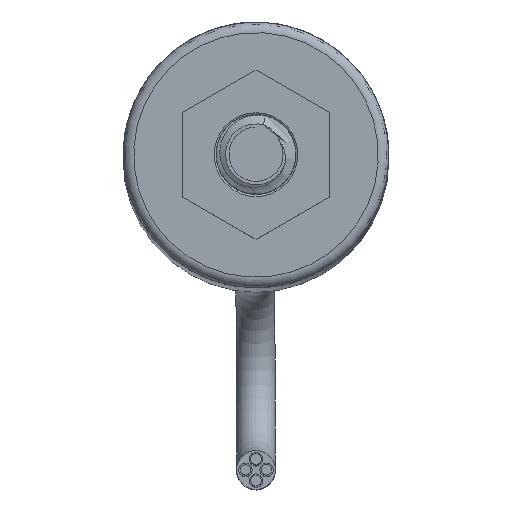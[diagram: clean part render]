
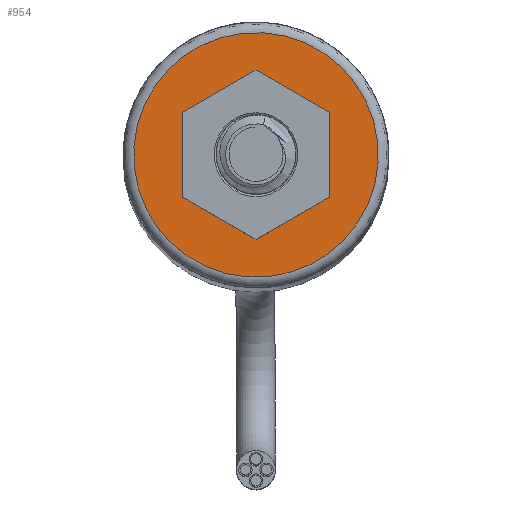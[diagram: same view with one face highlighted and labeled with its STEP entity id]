
A CAD part, top view. The second image highlights one B-rep face of the part: STEP entity #954.
In plain terms, the highlighted planar face has unit normal (0, 0, 1).
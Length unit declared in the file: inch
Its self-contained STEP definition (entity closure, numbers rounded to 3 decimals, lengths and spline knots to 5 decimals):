
#69=FACE_BOUND('',#190,.T.);
#87=PLANE('',#1193);
#123=FACE_OUTER_BOUND('',#189,.T.);
#189=EDGE_LOOP('',(#642));
#190=EDGE_LOOP('',(#643));
#367=CIRCLE('',#1188,0.23);
#371=CIRCLE('',#1194,0.11);
#424=VERTEX_POINT('',#1625);
#427=VERTEX_POINT('',#1635);
#506=EDGE_CURVE('',#424,#424,#367,.T.);
#511=EDGE_CURVE('',#427,#427,#371,.T.);
#642=ORIENTED_EDGE('',*,*,#506,.F.);
#643=ORIENTED_EDGE('',*,*,#511,.T.);
#954=ADVANCED_FACE('',(#123,#69),#87,.T.);
#1188=AXIS2_PLACEMENT_3D('',#1626,#1328,#1329);
#1193=AXIS2_PLACEMENT_3D('',#1634,#1339,#1340);
#1194=AXIS2_PLACEMENT_3D('',#1636,#1341,#1342);
#1328=DIRECTION('center_axis',(0.,0.,
-1.));
#1329=DIRECTION('ref_axis',(0.96,0.279,0.));
#1339=DIRECTION('center_axis',(0.,0.,
1.));
#1340=DIRECTION('ref_axis',(-0.96,-0.279,0.));
#1341=DIRECTION('center_axis',(0.,0.,
-1.));
#1342=DIRECTION('ref_axis',(-0.96,-0.279,0.));
#1625=CARTESIAN_POINT('',(0.22085,0.06423,0.03));
#1626=CARTESIAN_POINT('Origin',(0.,0.,
0.03));
#1634=CARTESIAN_POINT('Origin',(0.,0.,
0.03));
#1635=CARTESIAN_POINT('',(0.10562,0.03072,0.03));
#1636=CARTESIAN_POINT('Origin',(0.,0.,
0.03));
